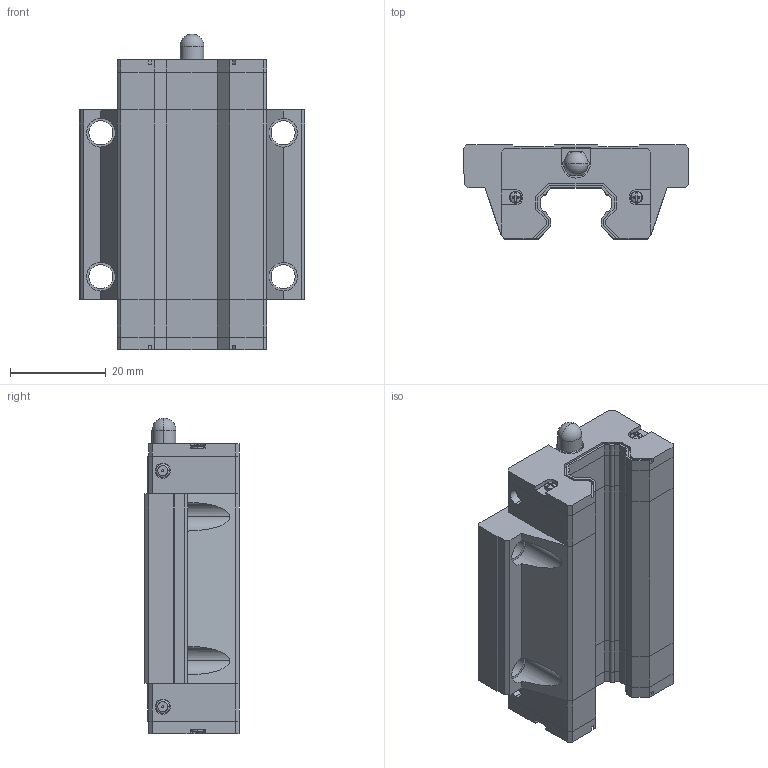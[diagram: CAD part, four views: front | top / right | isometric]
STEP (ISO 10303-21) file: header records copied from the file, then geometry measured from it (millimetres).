
FILE_DESCRIPTION (( 'STEP AP203' ), '1' );
FILE_NAME ('HGW15CC.STEP', '2021-10-22T07:52:14', ( '微软用户' ), ( '微软中国' ), 'SwSTEP 2.0', 'SolidWorks 2012', '' );
FILE_SCHEMA (( 'CONFIG_CONTROL_DESIGN' ));
Length unit declared in the file: millimetre
Products named in the file (1): HGW15CC
Bounding box: 47 x 19.6 x 65.8 mm (x, y, z)
Volume: 33677 mm3; surface area: 14251.5 mm2
Topology: 6 solids, 6 shells, 410 faces, 1122 edges, 744 vertices
Faces by surface type: plane 297, cylinder 84, torus 16, cone 7, sphere 6
Entity records: 13436 total; most frequent: CARTESIAN_POINT 2787, ORIENTED_EDGE 2236, DIRECTION 2159, EDGE_CURVE 1118, LINE 827, VECTOR 827, VERTEX_POINT 742, AXIS2_PLACEMENT_3D 666
